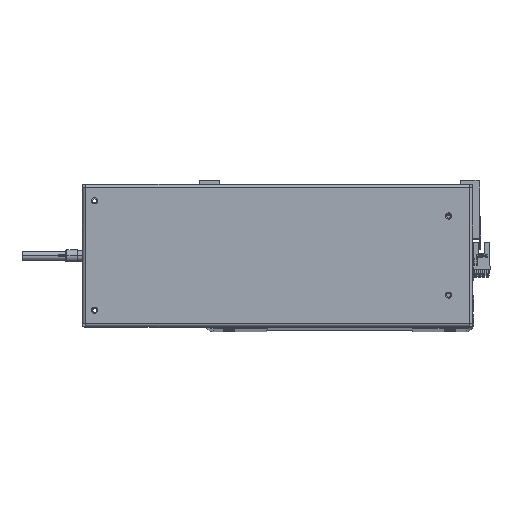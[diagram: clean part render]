
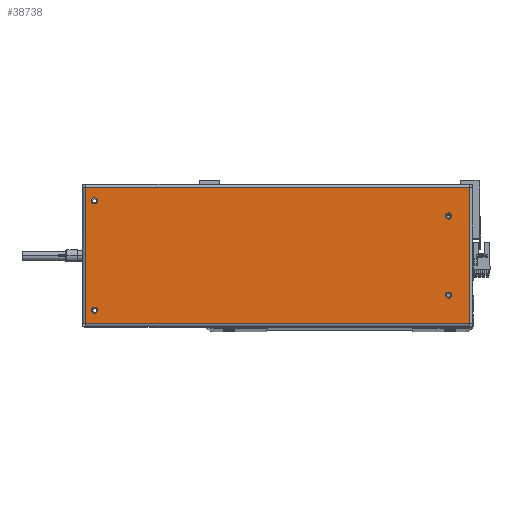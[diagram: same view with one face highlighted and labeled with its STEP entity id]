
A CAD part, top view. The second image highlights one B-rep face of the part: STEP entity #38738.
In plain terms, the highlighted planar face has unit normal (0, 0, 1).
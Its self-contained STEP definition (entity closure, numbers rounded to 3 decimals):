
#747 = VERTEX_POINT ( 'NONE', #30127 ) ;
#941 = DIRECTION ( 'NONE',  ( 0., 0., 1. ) ) ;
#1219 = AXIS2_PLACEMENT_3D ( 'NONE', #26012, #941, #16747 ) ;
#1328 = ORIENTED_EDGE ( 'NONE', *, *, #23722, .F. ) ;
#1506 = LINE ( 'NONE', #4195, #39652 ) ;
#1695 = VECTOR ( 'NONE', #7400, 1000. ) ;
#1974 = EDGE_CURVE ( 'NONE', #25679, #18737, #12536, .T. ) ;
#2207 = LINE ( 'NONE', #17073, #1695 ) ;
#2218 = CARTESIAN_POINT ( 'NONE',  ( -138., -32.5, 0. ) ) ;
#2701 = AXIS2_PLACEMENT_3D ( 'NONE', #14323, #20433, #10858 ) ;
#2783 = VECTOR ( 'NONE', #23942, 1000. ) ;
#3173 = EDGE_CURVE ( 'NONE', #24037, #747, #36155, .T. ) ;
#3485 = EDGE_LOOP ( 'NONE', ( #10235, #29875 ) ) ;
#4158 = FACE_BOUND ( 'NONE', #38851, .T. ) ;
#4195 = CARTESIAN_POINT ( 'NONE',  ( -157.7, -55.6, 0. ) ) ;
#4352 = DIRECTION ( 'NONE',  ( 0., 0., 1. ) ) ;
#4788 = VERTEX_POINT ( 'NONE', #34837 ) ;
#5201 = ORIENTED_EDGE ( 'NONE', *, *, #26961, .F. ) ;
#5502 = ORIENTED_EDGE ( 'NONE', *, *, #25186, .T. ) ;
#6008 = DIRECTION ( 'NONE',  ( 0., 0., 1. ) ) ;
#6059 = CARTESIAN_POINT ( 'NONE',  ( -138., 32.5, 0. ) ) ;
#7400 = DIRECTION ( 'NONE',  ( 0., 1., 0. ) ) ;
#7674 = CARTESIAN_POINT ( 'NONE',  ( 150.5, -45., 0. ) ) ;
#8090 = VERTEX_POINT ( 'NONE', #6059 ) ;
#9261 = ORIENTED_EDGE ( 'NONE', *, *, #13187, .F. ) ;
#10235 = ORIENTED_EDGE ( 'NONE', *, *, #31768, .F. ) ;
#10482 = VERTEX_POINT ( 'NONE', #29501 ) ;
#10770 = CIRCLE ( 'NONE', #39991, 2.5 ) ;
#10858 = DIRECTION ( 'NONE',  ( 1., 0., 0. ) ) ;
#10898 = CARTESIAN_POINT ( 'NONE',  ( 148., 45., 0. ) ) ;
#11063 = DIRECTION ( 'NONE',  ( 0., 0., 1. ) ) ;
#11811 = DIRECTION ( 'NONE',  ( -1., 0., 0. ) ) ;
#12118 = CARTESIAN_POINT ( 'NONE',  ( -143., -32.5, 0. ) ) ;
#12452 = CIRCLE ( 'NONE', #26192, 2.5 ) ;
#12536 = CIRCLE ( 'NONE', #2701, 2.5 ) ;
#13077 = VERTEX_POINT ( 'NONE', #21719 ) ;
#13187 = EDGE_CURVE ( 'NONE', #18737, #25679, #10770, .T. ) ;
#13424 = VERTEX_POINT ( 'NONE', #2218 ) ;
#13662 = EDGE_LOOP ( 'NONE', ( #5201, #1328 ) ) ;
#13784 = CIRCLE ( 'NONE', #16518, 2.5 ) ;
#14230 = DIRECTION ( 'NONE',  ( 0., 0., 1. ) ) ;
#14265 = DIRECTION ( 'NONE',  ( 1., 0., 0. ) ) ;
#14287 = DIRECTION ( 'NONE',  ( 1., 0., 0. ) ) ;
#14323 = CARTESIAN_POINT ( 'NONE',  ( 150.5, 45., 0. ) ) ;
#14754 = EDGE_LOOP ( 'NONE', ( #9261, #28598 ) ) ;
#15024 = FACE_BOUND ( 'NONE', #3485, .T. ) ;
#16518 = AXIS2_PLACEMENT_3D ( 'NONE', #39577, #14230, #26683 ) ;
#16598 = ORIENTED_EDGE ( 'NONE', *, *, #39693, .T. ) ;
#16645 = AXIS2_PLACEMENT_3D ( 'NONE', #24946, #6008, #28106 ) ;
#16747 = DIRECTION ( 'NONE',  ( 1., 0., 0. ) ) ;
#16797 = DIRECTION ( 'NONE',  ( 1., 0., 0. ) ) ;
#16956 = EDGE_CURVE ( 'NONE', #4788, #28642, #31011, .T. ) ;
#17073 = CARTESIAN_POINT ( 'NONE',  ( 157.6, -55.6, 0. ) ) ;
#17499 = VECTOR ( 'NONE', #18262, 1000. ) ;
#18170 = CARTESIAN_POINT ( 'NONE',  ( -157.6, -55.6, 0. ) ) ;
#18262 = DIRECTION ( 'NONE',  ( 0., -1., 0. ) ) ;
#18737 = VERTEX_POINT ( 'NONE', #20606 ) ;
#20433 = DIRECTION ( 'NONE',  ( 0., 0., 1. ) ) ;
#20606 = CARTESIAN_POINT ( 'NONE',  ( 153., 45., 0. ) ) ;
#21333 = CARTESIAN_POINT ( 'NONE',  ( -157.6, 55.6, 0. ) ) ;
#21719 = CARTESIAN_POINT ( 'NONE',  ( 157.6, -55.6, 0. ) ) ;
#21877 = DIRECTION ( 'NONE',  ( 1., 0., 0. ) ) ;
#22630 = CARTESIAN_POINT ( 'NONE',  ( 148., -45., 0. ) ) ;
#22791 = ORIENTED_EDGE ( 'NONE', *, *, #27535, .F. ) ;
#23014 = VERTEX_POINT ( 'NONE', #12118 ) ;
#23193 = DIRECTION ( 'NONE',  ( 1., 0., 0. ) ) ;
#23511 = VERTEX_POINT ( 'NONE', #18170 ) ;
#23722 = EDGE_CURVE ( 'NONE', #23014, #13424, #12452, .T. ) ;
#23746 = EDGE_LOOP ( 'NONE', ( #16598, #5502, #40985, #39683 ) ) ;
#23942 = DIRECTION ( 'NONE',  ( -1., 0., 0. ) ) ;
#24037 = VERTEX_POINT ( 'NONE', #22630 ) ;
#24086 = CARTESIAN_POINT ( 'NONE',  ( 157.7, 55.6, 0. ) ) ;
#24461 = FACE_OUTER_BOUND ( 'NONE', #23746, .T. ) ;
#24503 = CIRCLE ( 'NONE', #16645, 2.5 ) ;
#24946 = CARTESIAN_POINT ( 'NONE',  ( 150.5, -45., 0. ) ) ;
#25186 = EDGE_CURVE ( 'NONE', #23511, #13077, #1506, .T. ) ;
#25679 = VERTEX_POINT ( 'NONE', #10898 ) ;
#26012 = CARTESIAN_POINT ( 'NONE',  ( -140.5, 32.5, 0. ) ) ;
#26192 = AXIS2_PLACEMENT_3D ( 'NONE', #40667, #33998, #21877 ) ;
#26391 = LINE ( 'NONE', #21333, #17499 ) ;
#26683 = DIRECTION ( 'NONE',  ( 1., 0., 0. ) ) ;
#26961 = EDGE_CURVE ( 'NONE', #13424, #23014, #13784, .T. ) ;
#27024 = ORIENTED_EDGE ( 'NONE', *, *, #31180, .F. ) ;
#27535 = EDGE_CURVE ( 'NONE', #8090, #10482, #34503, .T. ) ;
#28106 = DIRECTION ( 'NONE',  ( 1., 0., 0. ) ) ;
#28447 = AXIS2_PLACEMENT_3D ( 'NONE', #39319, #11063, #14265 ) ;
#28598 = ORIENTED_EDGE ( 'NONE', *, *, #1974, .F. ) ;
#28642 = VERTEX_POINT ( 'NONE', #31898 ) ;
#29280 = EDGE_CURVE ( 'NONE', #13077, #4788, #2207, .T. ) ;
#29501 = CARTESIAN_POINT ( 'NONE',  ( -143., 32.5, 0. ) ) ;
#29875 = ORIENTED_EDGE ( 'NONE', *, *, #3173, .F. ) ;
#30127 = CARTESIAN_POINT ( 'NONE',  ( 153., -45., 0. ) ) ;
#31011 = LINE ( 'NONE', #24086, #2783 ) ;
#31180 = EDGE_CURVE ( 'NONE', #10482, #8090, #39406, .T. ) ;
#31768 = EDGE_CURVE ( 'NONE', #747, #24037, #24503, .T. ) ;
#31898 = CARTESIAN_POINT ( 'NONE',  ( -157.6, 55.6, 0. ) ) ;
#32810 = FACE_BOUND ( 'NONE', #13662, .T. ) ;
#33998 = DIRECTION ( 'NONE',  ( 0., 0., 1. ) ) ;
#34503 = CIRCLE ( 'NONE', #28447, 2.5 ) ;
#34837 = CARTESIAN_POINT ( 'NONE',  ( 157.6, 55.6, 0. ) ) ;
#35618 = AXIS2_PLACEMENT_3D ( 'NONE', #7674, #39336, #14287 ) ;
#35864 = CARTESIAN_POINT ( 'NONE',  ( 150.5, 45., 0. ) ) ;
#36155 = CIRCLE ( 'NONE', #35618, 2.5 ) ;
#37143 = CARTESIAN_POINT ( 'NONE',  ( 157.7, 58.5, 0. ) ) ;
#37209 = AXIS2_PLACEMENT_3D ( 'NONE', #37143, #40097, #11811 ) ;
#38738 = ADVANCED_FACE ( 'NONE', ( #32810, #4158, #15024, #39291, #24461 ), #40365, .F. ) ;
#38851 = EDGE_LOOP ( 'NONE', ( #22791, #27024 ) ) ;
#39291 = FACE_BOUND ( 'NONE', #14754, .T. ) ;
#39319 = CARTESIAN_POINT ( 'NONE',  ( -140.5, 32.5, 0. ) ) ;
#39336 = DIRECTION ( 'NONE',  ( 0., 0., 1. ) ) ;
#39406 = CIRCLE ( 'NONE', #1219, 2.5 ) ;
#39577 = CARTESIAN_POINT ( 'NONE',  ( -140.5, -32.5, 0. ) ) ;
#39652 = VECTOR ( 'NONE', #16797, 1000. ) ;
#39683 = ORIENTED_EDGE ( 'NONE', *, *, #16956, .T. ) ;
#39693 = EDGE_CURVE ( 'NONE', #28642, #23511, #26391, .T. ) ;
#39991 = AXIS2_PLACEMENT_3D ( 'NONE', #35864, #4352, #23193 ) ;
#40097 = DIRECTION ( 'NONE',  ( 0., 0., -1. ) ) ;
#40365 = PLANE ( 'NONE',  #37209 ) ;
#40667 = CARTESIAN_POINT ( 'NONE',  ( -140.5, -32.5, 0. ) ) ;
#40985 = ORIENTED_EDGE ( 'NONE', *, *, #29280, .T. ) ;
